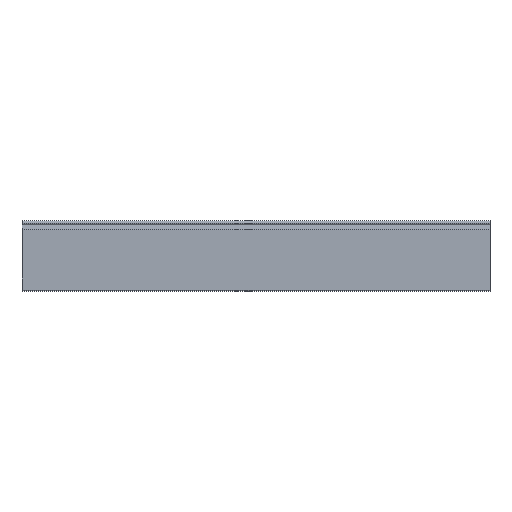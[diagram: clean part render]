
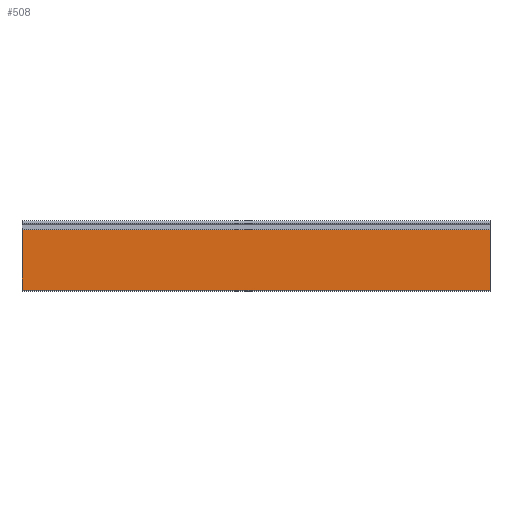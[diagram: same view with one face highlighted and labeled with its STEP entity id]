
A CAD part, top view. The second image highlights one B-rep face of the part: STEP entity #508.
In plain terms, the highlighted planar face has unit normal (0, 0, 1).
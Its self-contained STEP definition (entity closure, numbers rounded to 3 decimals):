
#195 = EDGE_CURVE ( 'NONE', #581, #567, #300, .T. ) ;
#259 = AXIS2_PLACEMENT_3D ( 'NONE', #838, #841, #842 ) ;
#300 = LINE ( 'NONE', #717, #302 ) ;
#302 = VECTOR ( 'NONE', #718, 1000. ) ;
#353 = FACE_OUTER_BOUND ( 'NONE', #1121, .T. ) ;
#372 = LINE ( 'NONE', #976, #396 ) ;
#396 = VECTOR ( 'NONE', #979, 1000. ) ;
#406 = LINE ( 'NONE', #988, #407 ) ;
#407 = VECTOR ( 'NONE', #989, 1000. ) ;
#410 = LINE ( 'NONE', #992, #411 ) ;
#411 = VECTOR ( 'NONE', #993, 1000. ) ;
#508 = ADVANCED_FACE ( 'NONE', ( #353 ), #839, .F. ) ;
#534 = VERTEX_POINT ( 'NONE', #890 ) ;
#541 = VERTEX_POINT ( 'NONE', #897 ) ;
#567 = VERTEX_POINT ( 'NONE', #923 ) ;
#581 = VERTEX_POINT ( 'NONE', #937 ) ;
#717 = CARTESIAN_POINT ( 'NONE',  ( 425., -12.164, 4.05 ) ) ;
#718 = DIRECTION ( 'NONE',  ( 0., -1., 0. ) ) ;
#838 = CARTESIAN_POINT ( 'NONE',  ( 425., -12.164, 4.05 ) ) ;
#839 = PLANE ( 'NONE',  #259 ) ;
#841 = DIRECTION ( 'NONE',  ( 0., 0., -1. ) ) ;
#842 = DIRECTION ( 'NONE',  ( 0., 1., 0. ) ) ;
#890 = CARTESIAN_POINT ( 'NONE',  ( -425., -12.164, 4.05 ) ) ;
#897 = CARTESIAN_POINT ( 'NONE',  ( -425., -121.663, 4.05 ) ) ;
#923 = CARTESIAN_POINT ( 'NONE',  ( 425., -121.663, 4.05 ) ) ;
#937 = CARTESIAN_POINT ( 'NONE',  ( 425., -12.164, 4.05 ) ) ;
#976 = CARTESIAN_POINT ( 'NONE',  ( -425., -12.164, 4.05 ) ) ;
#979 = DIRECTION ( 'NONE',  ( 0., -1., 0. ) ) ;
#988 = CARTESIAN_POINT ( 'NONE',  ( 425., -121.663, 4.05 ) ) ;
#989 = DIRECTION ( 'NONE',  ( -1., 0., 0. ) ) ;
#992 = CARTESIAN_POINT ( 'NONE',  ( 425., -12.164, 4.05 ) ) ;
#993 = DIRECTION ( 'NONE',  ( -1., 0., 0. ) ) ;
#1121 = EDGE_LOOP ( 'NONE', ( #1241, #1240, #1265, #1253 ) ) ;
#1240 = ORIENTED_EDGE ( 'NONE', *, *, #1298, .F. ) ;
#1241 = ORIENTED_EDGE ( 'NONE', *, *, #1293, .T. ) ;
#1253 = ORIENTED_EDGE ( 'NONE', *, *, #1300, .T. ) ;
#1265 = ORIENTED_EDGE ( 'NONE', *, *, #195, .F. ) ;
#1293 = EDGE_CURVE ( 'NONE', #534, #541, #372, .T. ) ;
#1298 = EDGE_CURVE ( 'NONE', #567, #541, #406, .T. ) ;
#1300 = EDGE_CURVE ( 'NONE', #581, #534, #410, .T. ) ;
